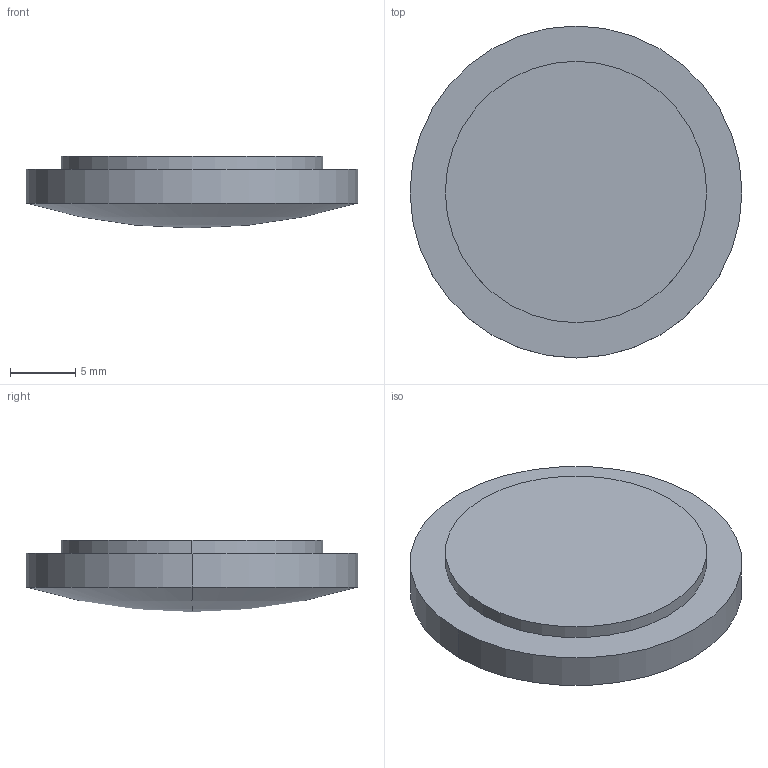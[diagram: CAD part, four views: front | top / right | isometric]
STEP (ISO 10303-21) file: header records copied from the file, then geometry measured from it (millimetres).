
FILE_DESCRIPTION(('STEP AP214'),'1');
FILE_NAME('LL-25-63.STEP','2020-03-09T17:41:11',(' '),(' '),'Spatial InterOp 3D',' ',' ');
FILE_SCHEMA(('AUTOMOTIVE_DESIGN { 1 0 10303 214 1 1 1 1 }'));
Length unit declared in the file: millimetre
Products named in the file (1): 1
Bounding box: 25.4 x 25.4 x 5.5 mm (x, y, z)
Volume: 2115 mm3; surface area: 1923 mm2
Topology: 2 solids, 2 shells, 9 faces, 16 edges, 9 vertices
Faces by surface type: cylinder 4, plane 3, sphere 2
Entity records: 229 total; most frequent: DIRECTION 46, CARTESIAN_POINT 34, ORIENTED_EDGE 28, AXIS2_PLACEMENT_3D 21, EDGE_CURVE 14, CIRCLE 10, ADVANCED_FACE 9, FACE_OUTER_BOUND 9
